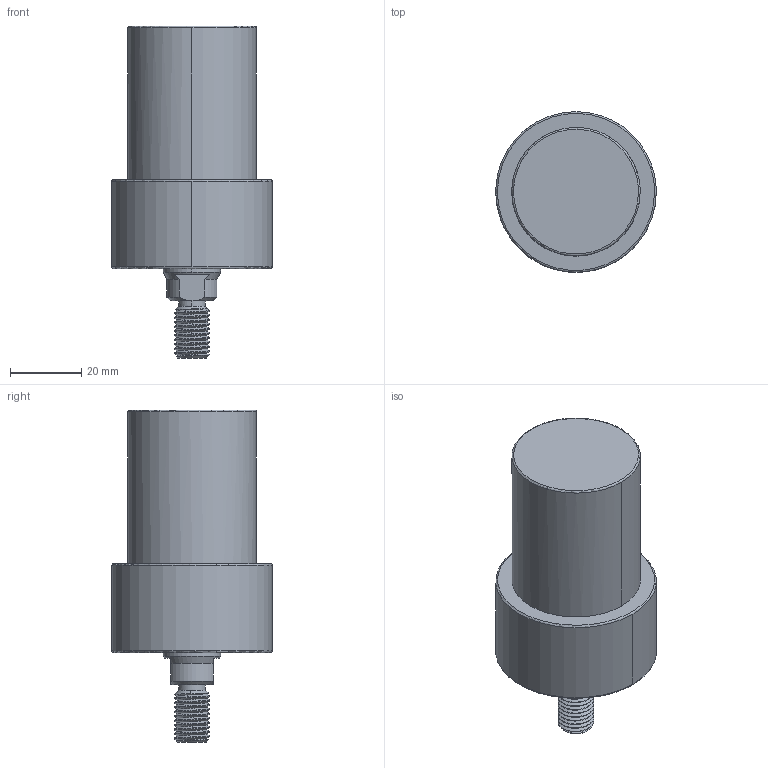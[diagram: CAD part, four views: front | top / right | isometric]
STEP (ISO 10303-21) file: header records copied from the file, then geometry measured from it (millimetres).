
FILE_DESCRIPTION((' '),'2;1');
FILE_NAME( 'TLLU-036GT-035.STEP.stp', '2025-10-24T16:37:07', (' '), ('--- Datakit www.datakit.com---'), ' Datakit CrossCadWare V2024.1 Dec 21 2023', 'Mastercam 2025', ' ');
FILE_SCHEMA(('AUTOMOTIVE_DESIGN { 1 0 10303 214 1 1 1 1 }'));
Length unit declared in the file: millimetre
Products named in the file (1): TLLU-036GT-035
Bounding box: 44.99 x 45 x 93 mm (x, y, z)
Volume: 85308.8 mm3; surface area: 13215.4 mm2
Topology: 1 solids, 1 shells, 88 faces, 294 edges, 209 vertices
Faces by surface type: cylinder 43, cone 26, plane 11, torus 6, bspline 2
Entity records: 8074 total; most frequent: CARTESIAN_POINT 5590, ORIENTED_EDGE 572, DIRECTION 468, EDGE_CURVE 286, VERTEX_POINT 209, AXIS2_PLACEMENT_3D 199, CIRCLE 112, B_SPLINE_CURVE_WITH_KNOTS 104
